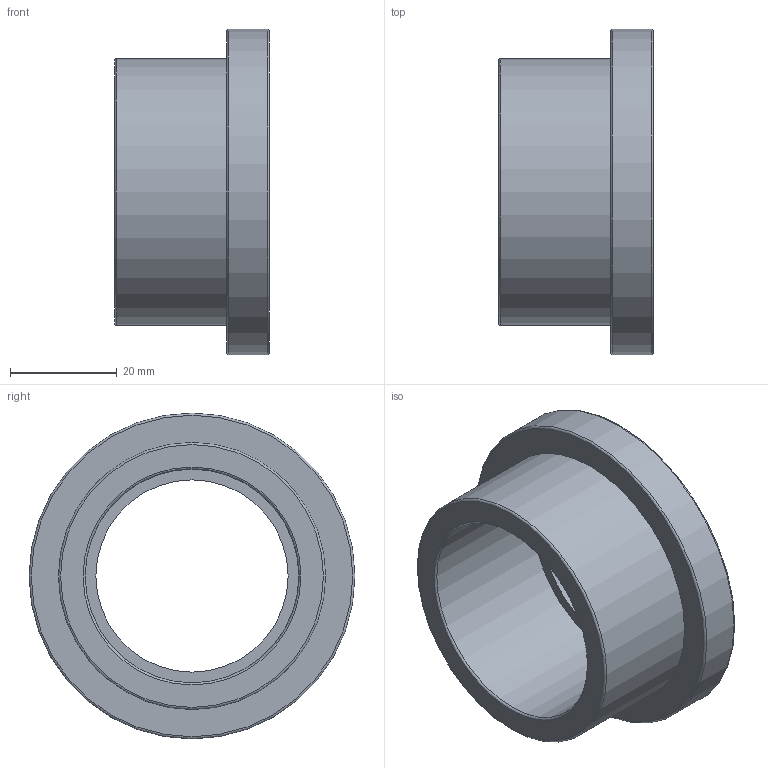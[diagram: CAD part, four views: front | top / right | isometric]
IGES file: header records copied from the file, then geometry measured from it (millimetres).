
Global section: file name: 055100040.ipt; native system: Autodesk Inventor 2015; preprocessor: unknown; author: KIM; date: 20180927.115420; units: millimetre
Bounding box: 29 x 61 x 61 mm (x, y, z)
Volume: 28860.2 mm3; surface area: 12113.7 mm2
Topology: 1 solids, 1 shells, 13 faces, 36 edges, 27 vertices
Faces by surface type: revolution 7, plane 4, cylinder 2
Full cylindrical faces by diameter (mm): 50 x1, 61 x1
